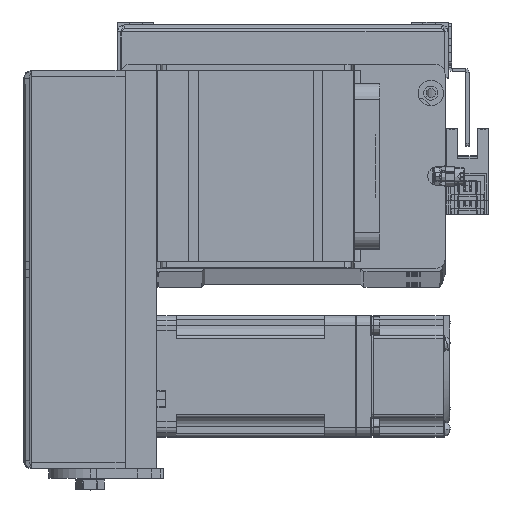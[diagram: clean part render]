
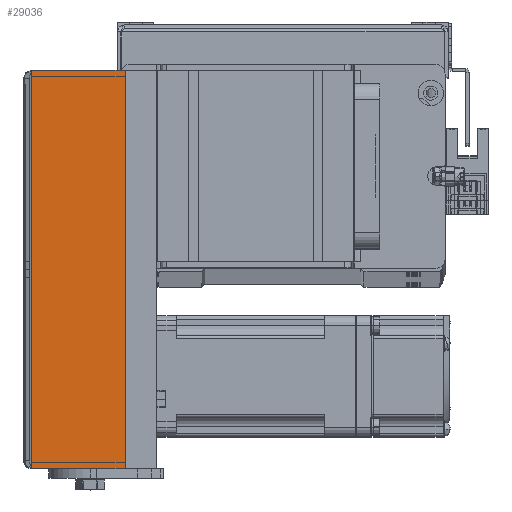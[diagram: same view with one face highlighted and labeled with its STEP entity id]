
A CAD part, top view. The second image highlights one B-rep face of the part: STEP entity #29036.
In plain terms, the highlighted planar face has unit normal (0, 0, 1) as drawn and (0, 0, -1) by its records, which use the part's own axes.
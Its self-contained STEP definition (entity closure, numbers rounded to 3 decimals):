
#2643 = ORIENTED_EDGE ( 'NONE', *, *, #31955, .F. ) ;
#3450 = ORIENTED_EDGE ( 'NONE', *, *, #30425, .F. ) ;
#4207 = LINE ( 'NONE', #38855, #32576 ) ;
#5132 = CARTESIAN_POINT ( 'NONE',  ( 62.5, -29.5, -31. ) ) ;
#5256 = CARTESIAN_POINT ( 'NONE',  ( 62.5, -29.5, -31. ) ) ;
#5798 = LINE ( 'NONE', #40254, #34920 ) ;
#6777 = CARTESIAN_POINT ( 'NONE',  ( -62.5, 0., -31. ) ) ;
#8510 = ORIENTED_EDGE ( 'NONE', *, *, #31344, .T. ) ;
#9583 = AXIS2_PLACEMENT_3D ( 'NONE', #40561, #15905, #16103 ) ;
#10118 = EDGE_LOOP ( 'NONE', ( #2643, #8510, #23747, #3450 ) ) ;
#10830 = CARTESIAN_POINT ( 'NONE',  ( -62.5, -29.5, -31. ) ) ;
#13734 = EDGE_CURVE ( 'NONE', #25854, #31477, #5798, .T. ) ;
#15590 = VECTOR ( 'NONE', #39780, 1000. ) ;
#15905 = DIRECTION ( 'NONE',  ( 0., 0., 1. ) ) ;
#16103 = DIRECTION ( 'NONE',  ( 0., 1., 0. ) ) ;
#17733 = LINE ( 'NONE', #5256, #25964 ) ;
#18886 = DIRECTION ( 'NONE',  ( 1., 0., 0. ) ) ;
#20192 = DIRECTION ( 'NONE',  ( 0., 1., 0. ) ) ;
#23747 = ORIENTED_EDGE ( 'NONE', *, *, #13734, .T. ) ;
#23996 = LINE ( 'NONE', #5132, #15590 ) ;
#25854 = VERTEX_POINT ( 'NONE', #6777 ) ;
#25964 = VECTOR ( 'NONE', #37215, 1000. ) ;
#26478 = CARTESIAN_POINT ( 'NONE',  ( 62.5, -29.5, -31. ) ) ;
#26603 = VERTEX_POINT ( 'NONE', #26478 ) ;
#29036 = ADVANCED_FACE ( 'NONE', ( #35174 ), #31696, .F. ) ;
#29912 = VERTEX_POINT ( 'NONE', #10830 ) ;
#30425 = EDGE_CURVE ( 'NONE', #26603, #31477, #17733, .T. ) ;
#31344 = EDGE_CURVE ( 'NONE', #29912, #25854, #4207, .T. ) ;
#31477 = VERTEX_POINT ( 'NONE', #37186 ) ;
#31696 = PLANE ( 'NONE',  #9583 ) ;
#31955 = EDGE_CURVE ( 'NONE', #29912, #26603, #23996, .T. ) ;
#32576 = VECTOR ( 'NONE', #20192, 1000. ) ;
#34920 = VECTOR ( 'NONE', #18886, 1000. ) ;
#35174 = FACE_OUTER_BOUND ( 'NONE', #10118, .T. ) ;
#37186 = CARTESIAN_POINT ( 'NONE',  ( 62.5, 0., -31. ) ) ;
#37215 = DIRECTION ( 'NONE',  ( 0., 1., 0. ) ) ;
#38855 = CARTESIAN_POINT ( 'NONE',  ( -62.5, -29.5, -31. ) ) ;
#39780 = DIRECTION ( 'NONE',  ( 1., 0., 0. ) ) ;
#40254 = CARTESIAN_POINT ( 'NONE',  ( 0., 0., -31. ) ) ;
#40561 = CARTESIAN_POINT ( 'NONE',  ( 0., -30., -31. ) ) ;
